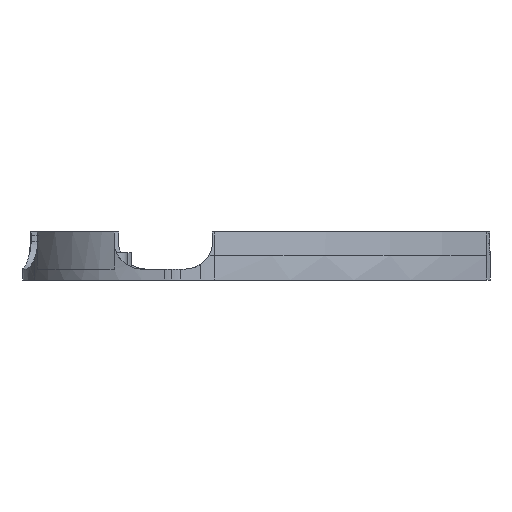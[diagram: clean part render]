
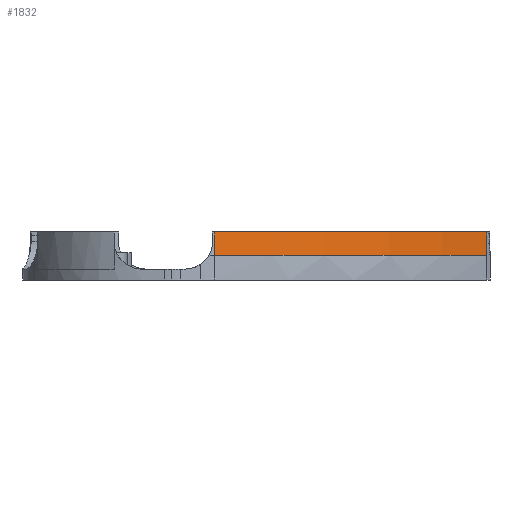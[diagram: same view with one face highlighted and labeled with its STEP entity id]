
A CAD part, left-side view. The second image highlights one B-rep face of the part: STEP entity #1832.
In plain terms, the highlighted free-form (B-spline) face has degree [2, 1] with [3, 2] control points.
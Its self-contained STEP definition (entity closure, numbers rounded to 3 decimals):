
#44=CARTESIAN_POINT('',(112.491,11.984,5.75));
#45=VERTEX_POINT('',#44);
#46=CARTESIAN_POINT('',(112.491,11.984,1.5));
#47=VERTEX_POINT('',#46);
#48=CARTESIAN_POINT('',(112.491,11.984,5.75));
#49=CARTESIAN_POINT('',(112.491,11.984,4.333));
#50=CARTESIAN_POINT('',(112.491,11.984,2.917));
#51=CARTESIAN_POINT('',(112.491,11.984,1.5));
#52=B_SPLINE_CURVE_WITH_KNOTS('',3,(#48,#49,#50,#51),.UNSPECIFIED.,.F.,.F.,(4,4),(-0.,0.004),.UNSPECIFIED.);
#53=EDGE_CURVE('',#45,#47,#52,.T.);
#1779=CARTESIAN_POINT('',(149.849,-37.545,5.75));
#1780=CARTESIAN_POINT('',(149.849,-37.545,1.5));
#1781=CARTESIAN_POINT('',(124.691,-19.689,5.75));
#1782=CARTESIAN_POINT('',(124.691,-19.689,1.5));
#1783=CARTESIAN_POINT('',(112.491,11.984,5.75));
#1784=CARTESIAN_POINT('',(112.491,11.984,1.5));
#1785=B_SPLINE_SURFACE_WITH_KNOTS('',2,1,((#1779,#1780),(#1781,#1782),(#1783,#1784)),.UNSPECIFIED.,.F.,.F.,.U.,(3,3),(2,2),(0.051,0.952),(1.094,1.625),.UNSPECIFIED.);
#1786=CARTESIAN_POINT('',(149.849,-37.545,1.5));
#1787=VERTEX_POINT('',#1786);
#1788=CARTESIAN_POINT('',(149.849,-37.545,5.75));
#1789=VERTEX_POINT('',#1788);
#1790=CARTESIAN_POINT('',(149.849,-37.545,1.5));
#1791=CARTESIAN_POINT('',(149.849,-37.545,2.917));
#1792=CARTESIAN_POINT('',(149.849,-37.545,4.333));
#1793=CARTESIAN_POINT('',(149.849,-37.545,5.75));
#1794=B_SPLINE_CURVE_WITH_KNOTS('',3,(#1790,#1791,#1792,#1793),.UNSPECIFIED.,.F.,.F.,(4,4),(0.024,0.028),.UNSPECIFIED.);
#1795=EDGE_CURVE('',#1787,#1789,#1794,.T.);
#1796=ORIENTED_EDGE('',*,*,#1795,.T.);
#1797=CARTESIAN_POINT('',(149.849,-37.545,5.75));
#1798=CARTESIAN_POINT('',(145.535,-34.484,5.75));
#1799=CARTESIAN_POINT('',(141.505,-31.116,5.75));
#1800=CARTESIAN_POINT('',(137.761,-27.442,5.75));
#1801=CARTESIAN_POINT('',(135.888,-25.605,5.75));
#1802=CARTESIAN_POINT('',(134.087,-23.692,5.75));
#1803=CARTESIAN_POINT('',(132.357,-21.702,5.75));
#1804=CARTESIAN_POINT('',(131.925,-21.204,5.75));
#1805=CARTESIAN_POINT('',(131.497,-20.702,5.75));
#1806=CARTESIAN_POINT('',(131.073,-20.195,5.75));
#1807=CARTESIAN_POINT('',(130.65,-19.687,5.75));
#1808=CARTESIAN_POINT('',(130.231,-19.176,5.75));
#1809=CARTESIAN_POINT('',(129.818,-18.661,5.75));
#1810=CARTESIAN_POINT('',(128.992,-17.632,5.75));
#1811=CARTESIAN_POINT('',(128.188,-16.589,5.75));
#1812=CARTESIAN_POINT('',(127.407,-15.534,5.75));
#1813=CARTESIAN_POINT('',(124.28,-11.315,5.75));
#1814=CARTESIAN_POINT('',(121.501,-6.897,5.75));
#1815=CARTESIAN_POINT('',(119.028,-2.303,5.75));
#1816=CARTESIAN_POINT('',(116.555,2.291,5.75));
#1817=CARTESIAN_POINT('',(114.388,7.06,5.75));
#1818=CARTESIAN_POINT('',(112.491,11.984,5.75));
#1819=B_SPLINE_CURVE_WITH_KNOTS('',3,(#1797,#1798,#1799,#1800,#1801,#1802,#1803,#1804,#1805,#1806,#1807,#1808,#1809,#1810,#1811,#1812,#1813,#1814,#1815,#1816,#1817,#1818),.UNSPECIFIED.,.F.,.F.,(4,3,3,3,3,3,3,4),(0.,0.016,0.024,0.026,0.028,0.031,0.047,0.063),.UNSPECIFIED.);
#1820=EDGE_CURVE('',#1789,#45,#1819,.T.);
#1821=ORIENTED_EDGE('',*,*,#1820,.T.);
#1822=ORIENTED_EDGE('',*,*,#53,.T.);
#1823=CARTESIAN_POINT('',(149.849,-37.545,1.5));
#1824=CARTESIAN_POINT('',(133.077,-25.641,1.5));
#1825=CARTESIAN_POINT('',(120.624,-9.132,1.5));
#1826=CARTESIAN_POINT('',(112.491,11.984,1.5));
#1827=B_SPLINE_CURVE_WITH_KNOTS('',3,(#1823,#1824,#1825,#1826),.UNSPECIFIED.,.F.,.F.,(4,4),(0.048,0.949),.UNSPECIFIED.);
#1828=EDGE_CURVE('',#1787,#47,#1827,.T.);
#1829=ORIENTED_EDGE('',*,*,#1828,.F.);
#1830=EDGE_LOOP('',(#1796,#1821,#1822,#1829));
#1831=FACE_BOUND('',#1830,.T.);
#1832=ADVANCED_FACE('',(#1831),#1785,.T.);
